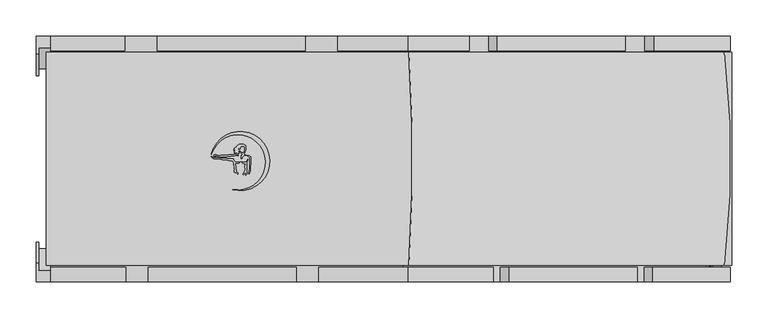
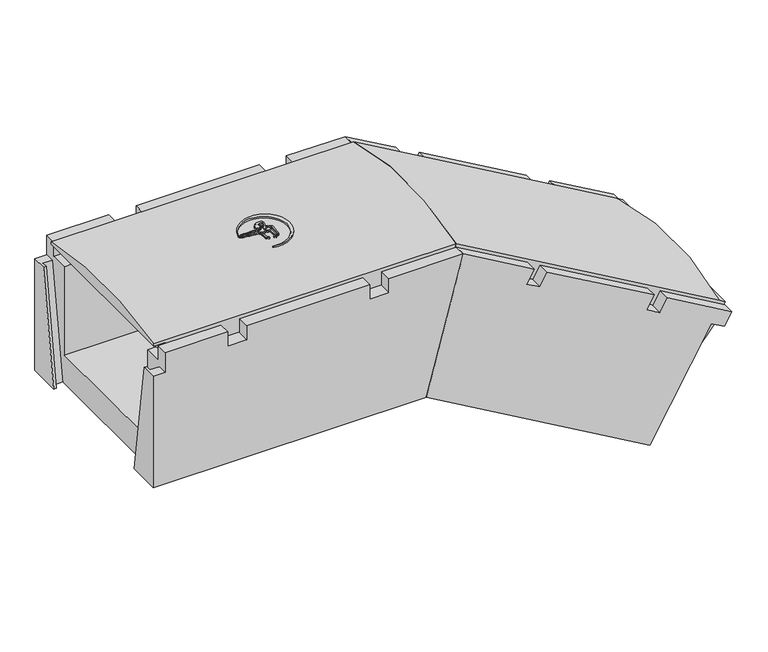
"""IFC4 building model written with IfcOpenShell, lengths in millimetres: cable carrier fitting geometry, Evotray type 2 vertical bend down : Evotray type 2 vertical bend down."""

from ifc_helpers import new_model, si_unit, point, frame, frame_2d, origin, place, context, project, spatial, polyline, circle_curve, ellipse_curve, trimmed, segment, composite_curve, outline, extrude, faceted_brep, source, transform, mapped, element, save
from ifc_brep_helpers import plane_surface, cylinder_surface, advanced_brep


def cable_carrier_fitting_57f28d0a(model_context):
    return source(origin(), model_context, "Body", "SolidModel", [
        extrude(outline(composite_curve([segment(polyline([(-95.1987673, 5.907559), (-93.7730763, 5.0844359), (-94.4820077, 4.6751342), (-97.0469375, 4.6751342), (-99.5064308, 2.2156409), (-99.5064308, 0.6319729), (-100.5639447, 0.3486129), (-100.8953119, 1.5852919), (-100.5730905, 2.7878385), (-100.5730905, 5.0146536), (-99.1065498, 6.4811943), (-99.5064308, 7.1738084), (-100.5730905, 7.7896447), (-101.4313624, 8.2851682), (-102.4244859, 9.2782918), (-102.4244859, 10.5283487), (-101.6366917, 10.0735155), (-100.5730905, 9.0099142), (-99.5064308, 8.394078), (-97.1936661, 8.394078), (-96.5617675, 9.0259766), (-96.5617675, 10.6343813), (-96.1559104, 11.3373462), (-95.9163405, 12.2314336), (-95.9163405, 16.3268685), (-96.5617675, 16.9722955), (-100.5730905, 17.3232408), (-101.3212546, 16.8912881), (-101.7531031, 16.1433045), (-101.9754965, 15.313321), (-102.2482129, 13.7666695), (-102.8042347, 14.3226912), (-103.3698905, 14.8883471), (-104.3304254, 14.8883471), (-104.8048648, 14.0665939), (-104.8048648, 13.2416885), (-104.4028177, 12.5453225), (-103.675123, 11.8176278), (-104.0717623, 10.3373496), (-104.4092623, 9.0777826), (-104.1064549, 7.3604762), (-104.907248, 7.2192748), (-106.6376932, 7.6829462), (-107.8844025, 8.2642963), (-108.6376597, 8.6155459), (-110.2371082, 8.33352), (-109.7695498, 9.1433549), (-108.1127288, 9.7463885)]), True, "CONTINUOUS"), segment(trimmed(circle_curve(frame_2d((-108.6788564, 9.4744491)), 0.6280537), [point((-108.1127288, 9.7463885))], [point((-108.8344386, 10.0829273))], True, "CARTESIAN"), True, "CONTINUOUS"), segment(polyline([(-108.8344386, 10.0829273), (-110.7814537, 10.0829273), (-110.2232755, 10.6411054), (-109.3724958, 10.9507639), (-108.5540563, 11.2486515)]), True, "CONTINUOUS"), segment(trimmed(circle_curve(frame_2d((-109.2923812, 11.2486515)), 0.7383249), [point((-108.5540563, 11.2486515))], [point((-109.2923812, 11.9869764))], True, "CARTESIAN"), True, "CONTINUOUS"), segment(polyline([(-109.2923812, 11.9869764), (-111.0001288, 11.9869764), (-111.3916504, 12.6651117), (-109.5730583, 12.9857785), (-108.2767203, 13.457607), (-108.897473, 14.0783597), (-110.8606925, 14.0783597), (-110.30811, 14.6309421), (-109.2782773, 15.2255163), (-108.603553, 15.9002407), (-107.8807357, 16.3175594), (-106.9057237, 16.8804829)]), True, "CONTINUOUS"), segment(trimmed(circle_curve(frame_2d((-107.1167091, 17.2459203)), 0.4219708), [point((-106.9057237, 16.8804829))], [point((-107.3276945, 17.6113577))], True, "CARTESIAN"), True, "CONTINUOUS"), segment(polyline([(-107.3276945, 17.6113577), (-106.7102978, 18.2287544), (-105.4076278, 18.7028875), (-104.4125713, 19.2773836), (-103.2810347, 19.4769041), (-103.6348604, 20.4490324), (-98.6348604, 20.4490324), (-97.6206866, 19.9761154), (-96.4988316, 19.6755153), (-95.4843855, 19.0898245), (-94.3757091, 17.9811481), (-94.3757091, 15.4151328), (-94.8646262, 14.5683035), (-94.8646262, 11.8362675), (-95.3536612, 10.7875287), (-95.760463, 10.0829273), (-95.760463, 8.2341629), (-96.5617675, 7.7715296), (-97.3950459, 7.6246001)]), True, "CONTINUOUS"), segment(trimmed(circle_curve(frame_2d((-96.3420944, 7.3424626)), 1.0900956), [point((-97.3950459, 7.6246001))], [point((-96.6242319, 6.2895111))], True, "CARTESIAN"), True, "CONTINUOUS"), segment(polyline([(-96.6242319, 6.2895111), (-95.1987673, 5.907559)]), True, "CONTINUOUS")], self_intersect=False)), frame((0.0, 0.0, 229.0645802), z_axis=(0.0, 0.0, 1.0), x_axis=(1.0, 0.0, 0.0)), (0.0, 0.0, 1.0), 22.5),
        extrude(outline(polyline([(-90.6420581, 3.0525563), (-92.5647021, 4.1625953), (-91.375462, 4.4812513), (-90.0006066, 3.9808448), (-87.8744575, 2.753312), (-87.462808, 1.2170154), (-87.462808, -1.5561738), (-87.8811889, -3.9289297), (-88.2073261, -13.2682758), (-88.2073261, -16.1231727), (-88.766974, -19.297094), (-89.9259981, -20.4561181), (-90.8234867, -20.4561181), (-90.1486125, -18.6019165), (-89.8396569, -16.8497423), (-89.3251997, -13.9321102), (-89.3251997, -2.6926455), (-88.883565, -0.1880111), (-89.4260419, 1.8365401), (-90.6420581, 3.0525563)])), frame((0.0, 0.0, 229.0645802), z_axis=(0.0, 0.0, 1.0), x_axis=(1.0, 0.0, 0.0)), (0.0, 0.0, 1.0), 22.5),
        extrude(outline(composite_curve([segment(polyline([(-98.070307, -4.5554644), (-96.0881056, -4.5554644), (-94.6198413, -4.2965698), (-93.3145593, -2.9912878), (-92.1344504, -0.4605362), (-91.6534984, -1.7819409), (-92.2762062, -3.117342), (-92.9468137, -4.5554644), (-92.9468137, -10.5136603), (-93.3751928, -12.943119), (-93.3751928, -21.4242609), (-94.8238515, -22.8729196), (-95.3965887, -22.3001824), (-94.7178687, -20.5578122), (-94.4597233, -19.0937972)]), True, "CONTINUOUS"), segment(trimmed(circle_curve(frame_2d((-94.8743713, -19.0937972)), 0.414648), [point((-94.4597233, -19.0937972))], [point((-95.2890194, -19.0937972))], True, "CARTESIAN"), True, "CONTINUOUS"), segment(polyline([(-95.2890194, -19.0937972), (-96.0547081, -19.8594859), (-97.3215546, -21.3692548), (-97.9770637, -22.0247639), (-98.7693849, -21.6552984), (-96.605165, -18.4467105), (-96.2992553, -16.7118106), (-95.4571975, -14.9060116), (-95.19999, -13.4473154), (-95.9884987, -12.0815782), (-95.9884987, -9.315031), (-94.6653502, -7.4454743)]), True, "CONTINUOUS"), segment(trimmed(circle_curve(frame_2d((-95.0024552, -7.2068937)), 0.4129897), [point((-94.6653502, -7.4454743))], [point((-95.2410358, -6.8697887))], True, "CARTESIAN"), True, "CONTINUOUS"), segment(polyline([(-95.2410358, -6.8697887), (-97.2448508, -6.516462), (-98.6887473, -5.843162), (-100.508748, -4.9944818), (-100.508748, -4.1255015), (-98.070307, -4.5554644)]), True, "CONTINUOUS")], self_intersect=False)), frame((0.0, 0.0, 229.0645802), z_axis=(0.0, 0.0, 1.0), x_axis=(1.0, 0.0, 0.0)), (0.0, 0.0, 1.0), 22.5),
        extrude(outline(composite_curve([segment(polyline([(-140.4819029, 2.2537302), (-138.7462291, 1.4443722), (-134.5597552, 1.4443722), (-133.4890341, 1.731271), (-132.1624965, 1.731271), (-130.4413877, 1.4443722), (-128.4350656, 0.9067798), (-127.2818775, 0.597784), (-121.5899708, 0.597784), (-118.9734749, 0.1616293), (-117.6459123, -0.19409), (-112.03167, -0.19409)]), True, "CONTINUOUS"), segment(trimmed(circle_curve(frame_2d((-103.1781038, 2.7115165)), 9.3181642), [point((-112.03167, -0.19409))], [point((-108.6774022, -4.8108435))], True, "CARTESIAN"), True, "CONTINUOUS"), segment(polyline([(-108.6774022, -4.8108435), (-105.6256174, -4.8108435), (-103.5910388, -4.632841), (-102.4520349, -4.1017147), (-102.7095548, -5.0627921), (-103.6536491, -5.6078652), (-104.612336, -5.9567987), (-107.847041, -5.8438403), (-109.0357356, -6.2764898), (-109.44473, -7.153581), (-109.3696494, -8.0117562), (-108.8907652, -8.8412079), (-108.1701597, -9.5618134), (-108.1701597, -11.3180259), (-108.53546, -12.3216801), (-108.3911934, -13.970655), (-107.8861011, -15.8556852), (-107.737982, -17.5486944), (-105.3666469, -20.2766033), (-105.5753239, -21.4600691), (-108.1701597, -18.8652332), (-109.1329913, -19.1232231), (-110.5361675, -18.8758053), (-110.2606072, -18.1187094), (-110.2606072, -15.8446539), (-110.0850033, -14.8487551), (-110.2606072, -12.8415943), (-110.6362696, -11.8094702), (-110.6362696, -9.9842873), (-111.0826053, -9.0271173), (-111.0826053, -6.6493678), (-111.3310455, -5.7221762), (-111.7830159, -4.9393406), (-112.2317276, -4.1621491), (-112.84617, -3.5477067), (-113.2800213, -2.6173096), (-116.8809595, -2.4915621), (-119.2251115, -2.1008055), (-121.2577048, -1.5561738), (-124.5993244, -1.2049554), (-126.6789374, -1.2049554), (-128.021172, -0.8453047), (-129.5447671, -0.4370587), (-130.8880204, 0.1893106), (-131.8824091, 0.1893106), (-134.5338495, 0.1893106), (-135.6460936, -0.1087143), (-137.5093755, 0.0871245), (-138.9984504, 0.3353447), (-140.6717579, 1.1156208), (-141.6476843, 2.0915471), (-142.2867674, 2.7306302), (-142.2867674, 3.5175099), (-140.4819029, 2.2537302)]), True, "CONTINUOUS")], self_intersect=False)), frame((0.0, 0.0, 229.0645802), z_axis=(0.0, 0.0, 1.0), x_axis=(1.0, 0.0, 0.0)), (0.0, 0.0, 1.0), 22.5),
        extrude(outline(composite_curve([segment(polyline([(-137.9796703, 3.7977023), (-136.956356, 3.2068915), (-138.6840165, 3.7265624), (-139.014163, 4.6441261), (-138.1758386, 5.4824506), (-135.30302, 5.4824506), (-134.318583, 5.0847122), (-133.2280942, 4.6441261), (-132.4299007, 4.1832889), (-131.1696706, 4.1832889), (-130.3486455, 4.4787), (-129.4633932, 4.9898007), (-123.0496883, 4.9898007), (-122.1941137, 4.6441261), (-121.1237116, 4.6441261), (-120.1629915, 4.9898007), (-118.9838348, 4.9898007), (-118.2654957, 5.4045339), (-112.8528405, 5.4045339), (-112.0925598, 5.6780888), (-110.8504018, 5.6780888), (-110.2746333, 6.2538574), (-108.3170698, 6.2538574), (-107.0290688, 5.7334711), (-106.0171524, 5.1492409), (-105.2127113, 4.8242256)]), True, "CONTINUOUS"), segment(trimmed(circle_curve(frame_2d((-105.6200436, 4.6596527)), 0.4393221), [point((-105.2127113, 4.8242256))], [point((-105.7846166, 4.2523203))], False, "CARTESIAN"), True, "CONTINUOUS"), segment(polyline([(-105.7846166, 4.2523203), (-106.8003453, 4.6627013), (-108.112003, 4.6627013), (-109.382433, 4.8867124), (-110.1944574, 4.5945398), (-111.3374314, 4.1832889), (-114.6816293, 4.1832889), (-115.4727027, 3.7265624), (-119.0400229, 3.7265624), (-119.9228853, 3.2168416), (-129.9228853, 3.2168416), (-132.5335493, 2.9884381), (-136.222077, 4.4787), (-138.3728446, 4.4787), (-137.9796703, 3.7977023)]), True, "CONTINUOUS")], self_intersect=False)), frame((0.0, 0.0, 229.0645802), z_axis=(0.0, 0.0, 1.0), x_axis=(1.0, 0.0, 0.0)), (0.0, 0.0, 1.0), 22.5),
        extrude(outline(composite_curve([segment(trimmed(circle_curve(frame_2d((-105.3994103, -4.8721323)), 38.3616107), [point((-112.8072471, -42.511701))], [point((-142.1109456, 6.2578432))], True, "CARTESIAN"), True, "CONTINUOUS"), segment(trimmed(circle_curve(frame_2d((-102.2700096, -2.9917986)), 40.900563), [point((-142.1109456, 6.2578432))], [point((-112.8072471, -42.511701))], False, "CARTESIAN"), True, "CONTINUOUS")], self_intersect=False)), frame((0.0, 0.0, 229.0645802), z_axis=(0.0, 0.0, 1.0), x_axis=(1.0, 0.0, 0.0)), (0.0, 0.0, 1.0), 22.5),
        advanced_brep(
        [(123.6743371, -147.5, 205.0), (564.1992354, -147.5, -49.3371686), (578.687207, -147.5, -24.2432656), (568.2949022, -147.5, -18.2432656), (131.4448637, -147.5, 234.0), (564.1992354, 147.5, -49.3371686), (123.6743371, 147.5, 205.0), (131.4448637, 147.5, 234.0), (568.3069305, 147.5, -18.2224319), (578.687207, 147.5, -24.2432656)],
        [
            (0, 1),
            (1, 2),
            (2, 3),
            (3, 4),
            (4, 0),
            (5, 6),
            (6, 7),
            (7, 8),
            (8, 9),
            (9, 5),
            (1, 5),
            (9, 2),
            (6, 0),
            (4, 7, ellipse_curve(frame((-38.9457902, 0.0, -401.9065775), z_axis=(-0.9659258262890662, 0.0, 0.2588190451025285), x_axis=(-0.25881904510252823, 0.0, -0.9659258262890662)), 675.8168604, 652.7889593)),
            (8, 3),
            (8, 3, circle_curve(frame((250.3536418, 0.0, -568.9336825), z_axis=(0.866025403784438, 0.0, -0.5000000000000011), x_axis=(0.0, -1.0, 0.0)), 652.7889593)),
        ],
        [
            plane_surface(frame((564.1992354, -147.5, -49.3371686), z_axis=(0.0, -1.0000000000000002, 0.0), x_axis=(0.5000000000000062, 0.0, 0.8660254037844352))),
            plane_surface(frame((564.1992354, 147.5, -49.3371686), z_axis=(0.0, 1.0000000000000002, 0.0), x_axis=(-0.5000000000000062, 0.0, -0.8660254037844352))),
            plane_surface(frame((564.1992354, -147.5, -49.3371686), z_axis=(0.8660254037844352, 0.0, -0.5000000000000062), x_axis=(0.0, 1.0, 0.0))),
            plane_surface(frame((136.0, -147.5, 251.0), z_axis=(-0.9659258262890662, 0.0, 0.2588190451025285), x_axis=(0.0, 1.0, 0.0))),
            plane_surface(frame((123.6743371, -147.5, 205.0), z_axis=(-0.5000000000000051, 0.0, -0.8660254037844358), x_axis=(0.0, 1.0, 0.0))),
            plane_surface(frame((578.687207, -147.5, -24.2432656), z_axis=(0.5000000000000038, 0.0, 0.8660254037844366), x_axis=(-0.8660254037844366, 0.0, 0.5000000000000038))),
            plane_surface(frame((568.2949022, -147.5, -18.2432656), z_axis=(0.866025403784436, 0.0, -0.5000000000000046), x_axis=(0.5000000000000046, 0.0, 0.866025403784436))),
            cylinder_surface(frame((-185.1161202, 0.0, -317.5150982), z_axis=(0.866025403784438, 0.0, -0.5000000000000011), x_axis=(0.0, -1.0, 0.0)), 652.7889593),
        ],
        [
            (0, [[1, 2, 3, 4, 5]]),
            (1, [[6, 7, 8, 9, 10]]),
            (2, [[11, -10, 12, -2]]),
            (3, [[13, -5, 14, -7]]),
            (4, [[-1, -13, -6, -11]]),
            (5, [[15, -3, -12, -9]]),
            (6, [[-15, 16]]),
            (7, [[-4, -16, -8, -14]]),
        ],
    ),
        advanced_brep(
        [(-351.0, -147.5, 205.0), (123.6743371, -147.5, 205.0), (131.4448637, -147.5, 234.0), (-371.0, -147.5, 234.0), (-371.0, -147.5, 230.0), (-351.0, -147.5, 230.0), (123.6743371, 147.5, 205.0), (-351.0, 147.5, 205.0), (-351.0, 147.5, 230.0), (-371.0, 147.5, 230.0), (-371.0, 147.5, 234.0), (131.4448637, 147.5, 234.0)],
        [
            (0, 1),
            (1, 2),
            (2, 3),
            (3, 4),
            (4, 5),
            (5, 0),
            (6, 7),
            (7, 8),
            (8, 9),
            (9, 10),
            (10, 11),
            (11, 6),
            (9, 4),
            (3, 10, circle_curve(frame((-371.0, 0.0, -401.9065775), z_axis=(-1.0, 0.0, 0.0), x_axis=(0.0, -1.0, 0.0)), 652.7889593)),
            (6, 1),
            (0, 7),
            (11, 2, ellipse_curve(frame((-38.9457902, 0.0, -401.9065775), z_axis=(0.9659258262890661, 0.0, -0.2588190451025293), x_axis=(0.2588190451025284, 0.0, 0.9659258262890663)), 675.8168604, 652.7889593)),
            (8, 5),
        ],
        [
            plane_surface(frame((-371.0, -147.5, 205.0), z_axis=(0.0, -1.0, 0.0), x_axis=(0.0, 0.0, -1.0))),
            plane_surface(frame((-371.0, 147.5, 205.0), z_axis=(0.0, 1.0, 0.0), x_axis=(0.0, 0.0, 1.0))),
            plane_surface(frame((-371.0, -147.5, 251.0), z_axis=(-1.0, 0.0, 0.0), x_axis=(0.0, 1.0, 0.0))),
            plane_surface(frame((-371.0, -147.5, 205.0), z_axis=(0.0, 0.0, -1.0), x_axis=(0.0, 1.0, 0.0))),
            plane_surface(frame((123.6743371, -147.5, 205.0), z_axis=(0.9659258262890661, 0.0, -0.2588190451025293), x_axis=(0.0, 1.0, 0.0))),
            plane_surface(frame((-371.0, 147.5, 230.0), z_axis=(0.0, 0.0, -1.0), x_axis=(-1.0, 0.0, 0.0))),
            plane_surface(frame((-351.0, -147.5, 230.0), z_axis=(-1.0, 0.0, 0.0), x_axis=(0.0, 0.0, -1.0))),
            cylinder_surface(frame((-371.0, 0.0, -401.9065775), z_axis=(1.0, 0.0, 0.0), x_axis=(0.0, -1.0, 0.0)), 652.7889593),
        ],
        [
            (0, [[1, 2, 3, 4, 5, 6]]),
            (1, [[7, 8, 9, 10, 11, 12]]),
            (2, [[13, -4, 14, -10]]),
            (3, [[15, -1, 16, -7]]),
            (4, [[-15, -12, 17, -2]]),
            (5, [[18, -5, -13, -9]]),
            (6, [[-18, -8, -16, -6]]),
            (7, [[-3, -17, -11, -14]]),
        ],
    ),
        faceted_brep([(130.373067, -170.0, 230.0), (68.7447527, -170.0, 0.0), (440.0486003, -170.0, -214.3723763), (542.5486003, -170.0, -36.8371686), (564.1992354, -170.0, -49.3371686), (576.6992354, -170.0, -27.6865335), (469.3120853, -170.0, 34.3134665), (456.8120853, -170.0, 12.6628314), (435.1614502, -170.0, 25.1628314), (447.6614502, -170.0, 46.8134665), (270.1262424, -170.0, 149.3134665), (257.6262424, -170.0, 127.6628314), (235.9756073, -170.0, 140.1628314), (248.4756073, -170.0, 161.8134665), (68.7447527, 170.0, 0.0), (130.373067, 170.0, 230.0), (214.7006166, 170.0, 181.3134665), (202.2006166, 170.0, 159.6628314), (241.1717598, 170.0, 137.1628314), (253.6717598, 170.0, 158.8134665), (431.2069675, 170.0, 56.3134665), (418.7069675, 170.0, 34.6628314), (457.6781107, 170.0, 12.1628314), (470.1781107, 170.0, 33.8134665), (576.6992354, 170.0, -27.6865335), (564.1992354, 170.0, -49.3371686), (542.5486003, 170.0, -36.8371686), (440.0486003, 170.0, -214.3723763), (564.1992354, -120.0, -49.3371686), (564.1992354, -150.0, -49.3371686), (461.6992354, -115.4, -226.8723763), (461.6992354, 115.4, -226.8723763), (564.1992354, 150.0, -49.3371686), (564.1992354, 120.0, -49.3371686), (486.6992354, 120.0, -183.5711062), (486.6992354, -120.0, -183.5711062), (576.6992354, -150.0, -27.6865335), (576.6992354, 150.0, -27.6865335), (447.6614502, -150.0, 46.8134665), (270.1262424, -150.0, 149.3134665), (253.6717598, 150.0, 158.8134665), (431.2069675, 150.0, 56.3134665), (469.3120853, -150.0, 34.3134665), (470.1781107, 150.0, 33.8134665), (130.373067, -150.0, 230.0), (248.4756073, -150.0, 161.8134665), (130.373067, 150.0, 230.0), (214.7006166, 150.0, 181.3134665), (123.6743371, -150.0, 205.0), (123.6743371, -120.0, 205.0), (82.1422123, -120.0, 50.0), (82.1422123, 120.0, 50.0), (123.6743371, 120.0, 205.0), (123.6743371, 150.0, 205.0), (440.0486003, 113.0, -214.3723763), (450.4409051, 113.0, -220.3723763), (450.4409051, 115.4, -220.3723763), (450.4409051, -115.4, -220.3723763), (450.4409051, -113.0, -220.3723763), (440.0486003, -113.0, -214.3723763), (552.9409051, -150.0, -42.8371686), (542.5486003, -150.0, -36.8371686), (456.8120853, -150.0, 12.6628314), (435.1614502, -150.0, 25.1628314), (257.6262424, -150.0, 127.6628314), (235.9756073, -150.0, 140.1628314), (457.6781107, 150.0, 12.1628314), (542.5486003, 150.0, -36.8371686), (552.9409051, 150.0, -42.8371686), (241.1717598, 150.0, 137.1628314), (418.7069675, 150.0, 34.6628314), (202.2006166, 150.0, 159.6628314), (542.5486003, -147.6, -36.8371686), (552.9409051, -147.6, -42.8371686), (552.9409051, 147.6, -42.8371686), (542.5486003, 147.6, -36.8371686)], [[[0, 1, 2, 3, 4, 5, 6, 7, 8, 9, 10, 11, 12, 13]], [[14, 15, 16, 17, 18, 19, 20, 21, 22, 23, 24, 25, 26, 27]], [[28, 29, 30, 31, 32, 33, 34, 35]], [[36, 5, 4, 29]], [[24, 37, 32, 25]], [[10, 9, 38, 39]], [[20, 19, 40, 41]], [[5, 36, 42, 6]], [[37, 24, 23, 43]], [[44, 0, 13, 45]], [[15, 46, 47, 16]], [[1, 0, 44, 48, 49, 50, 51, 52, 53, 46, 15, 14]], [[1, 14, 27, 54, 55, 56, 31, 30, 57, 58, 59, 2]], [[36, 29, 60, 61, 62, 42]], [[39, 38, 63, 64]], [[48, 44, 45, 65]], [[32, 37, 43, 66, 67, 68]], [[41, 40, 69, 70]], [[46, 53, 71, 47]], [[49, 48, 65, 12, 11, 64, 63, 8, 7, 62, 61, 72, 73, 60, 29, 28]], [[53, 52, 33, 32, 68, 74, 75, 67, 66, 22, 21, 70, 69, 18, 17, 71]], [[35, 50, 49, 28]], [[51, 34, 33, 52]], [[50, 35, 34, 51]], [[60, 29, 4, 3, 61]], [[29, 60, 57, 30]], [[32, 68, 67, 26, 25]], [[68, 32, 31, 56]], [[58, 73, 72, 59]], [[59, 72, 61, 3, 2]], [[73, 58, 57, 60]], [[54, 75, 74, 55]], [[75, 54, 27, 26, 67]], [[55, 74, 68, 56]], [[70, 21, 20, 41]], [[22, 66, 43, 23]], [[62, 7, 6, 42]], [[8, 63, 38, 9]], [[71, 17, 16, 47]], [[18, 69, 40, 19]], [[64, 11, 10, 39]], [[12, 65, 45, 13]]]),
        faceted_brep([(-385.0, -170.0, 0.0), (68.7447527, -170.0, 0.0), (130.373067, -170.0, 230.0), (6.6963481, -170.0, 230.0), (6.6963481, -170.0, 205.0), (-24.6518259, -170.0, 205.0), (-24.6518259, -170.0, 230.0), (-229.6518259, -170.0, 230.0), (-229.6518259, -170.0, 205.0), (-261.0, -170.0, 205.0), (-261.0, -170.0, 230.0), (-365.0130369, -170.0, 230.0), (-365.0130369, -170.0, 196.0), (-385.0, -170.0, 196.0), (130.373067, 170.0, 230.0), (68.7447527, 170.0, 0.0), (-385.0, 170.0, 0.0), (-385.0, 170.0, 196.0), (-365.0130369, 170.0, 196.0), (-365.0130369, 170.0, 230.0), (-262.0, 170.0, 230.0), (-262.0, 170.0, 205.0), (-217.0, 170.0, 205.0), (-217.0, 170.0, 230.0), (-12.0, 170.0, 230.0), (-12.0, 170.0, 205.0), (33.0, 170.0, 205.0), (33.0, 170.0, 230.0), (-24.6518259, -150.0, 230.0), (-229.6518259, -150.0, 230.0), (-217.0, 150.0, 230.0), (-12.0, 150.0, 230.0), (130.373067, -150.0, 230.0), (6.6963481, -150.0, 230.0), (130.373067, 150.0, 230.0), (33.0, 150.0, 230.0), (-365.0130369, -150.0, 230.0), (-261.0, -150.0, 230.0), (-365.0130369, 150.0, 230.0), (-262.0, 150.0, 230.0), (-385.0, -115.45, 0.0), (-385.0, -144.8926087, 196.0), (-385.0, 115.45, 0.0), (-385.0, 144.8926087, 196.0), (-381.0, -115.45, 0.0), (-381.0, -124.6, 0.0), (-365.0, -124.6, 0.0), (-365.0, 124.6, 0.0), (-381.0, 124.6, 0.0), (-381.0, 115.45, 0.0), (123.6743371, 150.0, 205.0), (123.6743371, 120.0, 205.0), (82.1422123, 120.0, 50.0), (82.1422123, -120.0, 50.0), (123.6743371, -120.0, 205.0), (123.6743371, -150.0, 205.0), (-381.0, 144.8926087, 196.0), (-381.0, -144.8926087, 196.0), (-365.0, 154.0426087, 196.0), (-381.0, 154.0426087, 196.0), (-381.0, -154.0426087, 196.0), (-365.0, -154.0426087, 196.0), (-365.0, -150.0, 205.0), (-365.0, -147.5, 205.0), (-365.0, -120.0, 205.0), (-365.0, -120.0, 50.0), (-365.0, 120.0, 50.0), (-365.0, 120.0, 205.0), (-365.0, 147.5, 205.0), (-365.0, 150.0, 205.0), (-24.6518259, -150.0, 205.0), (-229.6518259, -150.0, 205.0), (6.6963481, -150.0, 205.0), (-261.0, -150.0, 205.0), (-217.0, 150.0, 205.0), (-12.0, 150.0, 205.0), (33.0, 150.0, 205.0), (-262.0, 150.0, 205.0), (-351.0, 120.0, 205.0), (-351.0, -120.0, 205.0)], [[[0, 1, 2, 3, 4, 5, 6, 7, 8, 9, 10, 11, 12, 13]], [[14, 15, 16, 17, 18, 19, 20, 21, 22, 23, 24, 25, 26, 27]], [[7, 6, 28, 29]], [[24, 23, 30, 31]], [[2, 32, 33, 3]], [[34, 14, 27, 35]], [[36, 11, 10, 37]], [[19, 38, 39, 20]], [[40, 0, 13, 41]], [[16, 42, 43, 17]], [[1, 0, 40, 44, 45, 46, 47, 48, 49, 42, 16, 15]], [[2, 1, 15, 14, 34, 50, 51, 52, 53, 54, 55, 32]], [[42, 49, 56, 43]], [[44, 40, 41, 57]], [[48, 47, 58, 59]], [[45, 44, 57, 60]], [[49, 48, 59, 56]], [[46, 45, 60, 61]], [[47, 46, 61, 12, 11, 36, 62, 63, 64, 65, 66, 67, 68, 69, 38, 19, 18, 58]], [[12, 61, 60, 57, 41, 13]], [[58, 18, 17, 43, 56, 59]], [[29, 28, 70, 71]], [[32, 55, 72, 33]], [[62, 36, 37, 73]], [[31, 30, 74, 75]], [[50, 34, 35, 76]], [[38, 69, 77, 39]], [[51, 50, 76, 26, 25, 75, 74, 22, 21, 77, 69, 68, 67, 78]], [[55, 54, 79, 64, 63, 62, 73, 9, 8, 71, 70, 5, 4, 72]], [[53, 65, 64, 79, 54]], [[66, 52, 51, 78, 67]], [[65, 53, 52, 66]], [[77, 21, 20, 39]], [[22, 74, 30, 23]], [[9, 73, 37, 10]], [[71, 8, 7, 29]], [[75, 25, 24, 31]], [[26, 76, 35, 27]], [[5, 70, 28, 6]], [[72, 4, 3, 33]]]),
    ])


if __name__ == "__main__":
    model = new_model("IFC4")
    model_context = context("Model", 3, world=origin())
    ifc_project = project(units=[si_unit("LENGTHUNIT", "METRE", prefix="MILLI")], contexts=[model_context])
    site = spatial("IfcSite", under=ifc_project)
    building = spatial("IfcBuilding", under=site)
    placement = place(None, origin())
    cable_carrier_fitting_shape = cable_carrier_fitting_57f28d0a(model_context)
    element("IfcCableCarrierFitting", 1, ObjectType="Evotray type 2 vertical bend down : Evotray type 2 vertical bend down", at=placement, inside=building, context=model_context, shape_type="MappedRepresentation", body=[
        mapped(cable_carrier_fitting_shape, transform((0.0, 0.0, 0.0), x_axis=(1.0, 0.0, 0.0), y_axis=(0.0, 1.0, 0.0), z_axis=(0.0, 0.0, 1.0))),
    ])
    save(model, "model.ifc")
